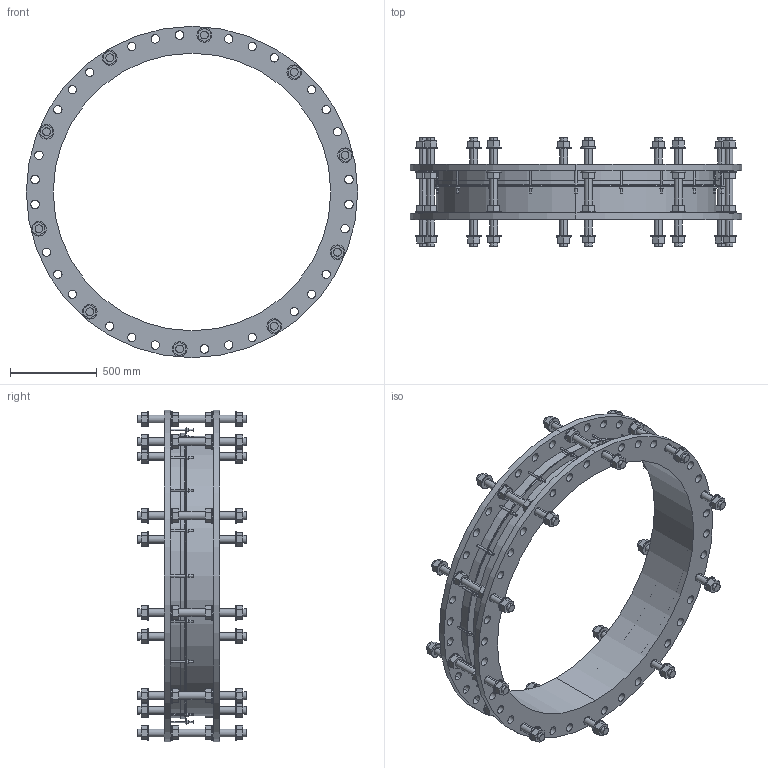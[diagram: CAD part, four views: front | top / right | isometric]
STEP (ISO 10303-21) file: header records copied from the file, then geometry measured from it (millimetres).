
FILE_DESCRIPTION((''),'2;1');
FILE_NAME('A2E_DJ_BIM_ASM','2020-11-26T',('mfairey'),('Glynwed Pipe Systems'),'CREO PARAMETRIC BY PTC INC, 2016130','CREO PARAMETRIC BY PTC INC, 2016130','');
FILE_SCHEMA(('CONFIG_CONTROL_DESIGN'));
Length unit declared in the file: millimetre
Products named in the file (3): DJ_AF0; TIE_BOLT_BIM; A2E_DJ_BIM_ASM
Assembly tree (11 placements, depth 2):
  A2E_DJ_BIM_ASM
    DJ_AF0
    TIE_BOLT_BIM  x10
Bounding box: 1915 x 630 x 1915 mm (x, y, z)
Volume: 90589189.4 mm3; surface area: 8724813 mm2
Topology: 11 solids, 11 shells, 1062 faces, 2590 edges, 1712 vertices
Faces by surface type: plane 586, cylinder 472, cone 4
Entity records: 19272 total; most frequent: CARTESIAN_POINT 4428, DIRECTION 3220, ORIENTED_EDGE 2912, EDGE_CURVE 1456, AXIS2_PLACEMENT_3D 1236, VERTEX_POINT 956, EDGE_LOOP 814, VECTOR 748
